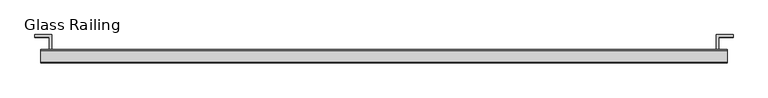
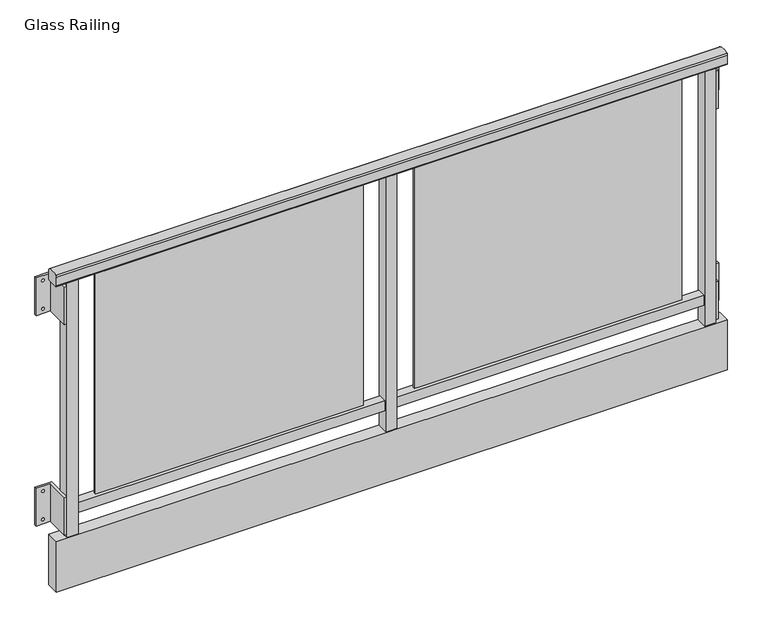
"""IFC4 building model written with IfcOpenShell, lengths in millimetres: proxy geometry, Specialty-Equipment_Endurable-Building-Products_Juliet-Balconies : Glass Railing."""

from ifc_helpers import new_model, si_unit, point, frame, frame_2d, origin, origin_with_axes, place, context, project, spatial, polyline, circle_curve, trimmed, segment, composite_curve, outline, extrude, source, transform, mapped, element, save
from ifc_brep_helpers import plane_surface, revolved_surface, advanced_brep


def glass_railing_28617125(model_context):
    return source(origin(), model_context, "Body", "SolidModel", [
        extrude(outline(polyline([(1121.56875, -76.99375), (1121.56875, -83.34375), (97.63125, -83.34375), (97.63125, -76.99375), (1121.56875, -76.99375)])), frame((0.0, 0.0, 122.936), z_axis=(0.0, 0.0, 1.0), x_axis=(1.0, 0.0, 0.0)), (0.0, 0.0, 1.0), 905.764),
        extrude(outline(polyline([(-1121.56875, -76.99375), (-97.63125, -76.99375), (-97.63125, -83.34375), (-1121.56875, -83.34375), (-1121.56875, -76.99375)])), frame((0.0, 0.0, 122.936), z_axis=(0.0, 0.0, 1.0), x_axis=(1.0, 0.0, 0.0)), (0.0, 0.0, 1.0), 905.764),
        extrude(outline(polyline([(21.43125, -63.86195), (1197.76875, -63.86195), (1197.76875, -96.47555), (21.43125, -96.47555), (21.43125, -63.86195)])), frame((0.0, 0.0, 82.55), z_axis=(0.0, 0.0, 1.0), x_axis=(1.0, 0.0, 0.0)), (0.0, 0.0, 1.0), 40.386),
        extrude(outline(polyline([(-1197.76875, -63.86195), (-21.43125, -63.86195), (-21.43125, -96.47555), (-1197.76875, -96.47555), (-1197.76875, -63.86195)])), frame((0.0, 0.0, 82.55), z_axis=(0.0, 0.0, 1.0), x_axis=(1.0, 0.0, 0.0)), (0.0, 0.0, 1.0), 40.386),
        extrude(outline(polyline([(21.43125, -58.7375), (21.43125, -101.6), (-21.43125, -101.6), (-21.43125, -58.7375), (21.43125, -58.7375)])), origin_with_axes(), (0.0, 0.0, 1.0), 1028.7),
        extrude(outline(polyline([(1282.7, -54.76875), (1282.7, -105.56875), (-1282.7, -105.56875), (-1282.7, -54.76875), (1282.7, -54.76875)])), frame((0.0, 0.0, -203.2), z_axis=(0.0, 0.0, 1.0), x_axis=(1.0, 0.0, 0.0)), (0.0, 0.0, 1.0), 203.2),
        extrude(outline(polyline([(-1197.76875, -58.7375), (-1197.76875, -101.6), (-1240.63125, -101.6), (-1240.63125, -58.7375), (-1197.76875, -58.7375)])), origin_with_axes(), (0.0, 0.0, 1.0), 1028.7),
        extrude(outline(polyline([(1240.63125, -58.7375), (1240.63125, -101.6), (1197.76875, -101.6), (1197.76875, -58.7375), (1240.63125, -58.7375)])), origin_with_axes(), (0.0, 0.0, 1.0), 1028.7),
        extrude(outline(composite_curve([segment(polyline([(-54.76875, 1069.1003287), (-54.76875, 1035.05)]), True, "CONTINUOUS"), segment(trimmed(circle_curve(frame_2d((-61.11875, 1035.05)), 6.35), [point((-54.76875, 1035.05))], [point((-61.11875, 1028.7))], False, "CARTESIAN"), True, "CONTINUOUS"), segment(polyline([(-61.11875, 1028.7), (-99.21875, 1028.7)]), True, "CONTINUOUS"), segment(trimmed(circle_curve(frame_2d((-99.21875, 1035.05)), 6.35), [point((-99.21875, 1028.7))], [point((-105.56875, 1035.05))], False, "CARTESIAN"), True, "CONTINUOUS"), segment(polyline([(-105.56875, 1035.05), (-105.56875, 1069.1003287)]), True, "CONTINUOUS"), segment(trimmed(circle_curve(frame_2d((-99.21875, 1069.1003287)), 6.35), [point((-105.56875, 1069.1003287))], [point((-101.8018008, 1074.9012207))], False, "CARTESIAN"), True, "CONTINUOUS"), segment(trimmed(circle_curve(frame_2d((-80.16875, 1026.31875)), 53.18125), [point((-101.8018008, 1074.9012207))], [point((-58.5356992, 1074.9012207))], False, "CARTESIAN"), True, "CONTINUOUS"), segment(trimmed(circle_curve(frame_2d((-61.11875, 1069.1003287)), 6.35), [point((-58.5356992, 1074.9012207))], [point((-54.76875, 1069.1003287))], False, "CARTESIAN"), True, "CONTINUOUS")], self_intersect=False)), frame((-1282.7, 0.0, 0.0), z_axis=(1.0, 0.0, 0.0), x_axis=(0.0, 1.0, 0.0)), (0.0, 0.0, 1.0), 2565.4),
        advanced_brep(
        [(1240.63125, -101.6, 165.1), (1250.15625, -101.6, 165.1), (1250.15625, -9.525, 165.1), (1304.13125, -9.525, 165.1), (1304.13125, 0.0, 165.1), (1240.63125, 0.0, 165.1), (1240.63125, -101.6, 12.7), (1240.63125, 0.0, 12.7), (1304.13125, 0.0, 12.7), (1304.13125, -9.525, 12.7), (1250.15625, -9.525, 12.7), (1250.15625, -101.6, 12.7), (1273.175, 0.0, 146.05), (1284.2875, 0.0, 146.05), (1273.175, 0.0, 31.75), (1284.2875, 0.0, 31.75), (1284.2875, -9.525, 146.05), (1273.175, -9.525, 146.05), (1284.2875, -9.525, 31.75), (1273.175, -9.525, 31.75)],
        [
            (0, 1),
            (1, 2),
            (2, 3),
            (3, 4),
            (4, 5),
            (5, 0),
            (6, 7),
            (7, 8),
            (8, 9),
            (9, 10),
            (10, 11),
            (11, 6),
            (5, 7),
            (6, 0),
            (4, 8),
            (12, 13, circle_curve(frame((1278.73125, 0.0, 146.05), z_axis=(0.0, -1.0, 0.0), x_axis=(-1.0, 0.0, 0.0)), 5.55625)),
            (13, 12, circle_curve(frame((1278.73125, 0.0, 146.05), z_axis=(0.0, -1.0, 0.0), x_axis=(-1.0, 0.0, 0.0)), 5.55625)),
            (14, 15, circle_curve(frame((1278.73125, 0.0, 31.75), z_axis=(0.0, -1.0, 0.0), x_axis=(-1.0, 0.0, 0.0)), 5.55625)),
            (15, 14, circle_curve(frame((1278.73125, 0.0, 31.75), z_axis=(0.0, -1.0, 0.0), x_axis=(-1.0, 0.0, 0.0)), 5.55625)),
            (3, 9),
            (2, 10),
            (16, 17, circle_curve(frame((1278.73125, -9.525, 146.05), z_axis=(0.0, 1.0, 0.0), x_axis=(-1.0, 0.0, 0.0)), 5.55625)),
            (17, 16, circle_curve(frame((1278.73125, -9.525, 146.05), z_axis=(0.0, 1.0, 0.0), x_axis=(-1.0, 0.0, 0.0)), 5.55625)),
            (18, 19, circle_curve(frame((1278.73125, -9.525, 31.75), z_axis=(0.0, 1.0, 0.0), x_axis=(-1.0, 0.0, 0.0)), 5.55625)),
            (19, 18, circle_curve(frame((1278.73125, -9.525, 31.75), z_axis=(0.0, 1.0, 0.0), x_axis=(-1.0, 0.0, 0.0)), 5.55625)),
            (1, 11),
            (16, 13),
            (12, 17),
            (18, 15),
            (14, 19),
        ],
        [
            plane_surface(frame((1240.63125, -101.6, 165.1), z_axis=(0.0, 0.0, 1.0), x_axis=(1.0, 0.0, 0.0))),
            plane_surface(frame((1240.63125, -101.6, 12.7), z_axis=(0.0, 0.0, -1.0), x_axis=(-1.0, 0.0, 0.0))),
            plane_surface(frame((1240.63125, 0.0, 165.1), z_axis=(-1.0, 0.0, 0.0), x_axis=(0.0, 0.0, -1.0))),
            plane_surface(frame((1304.13125, 0.0, 165.1), z_axis=(0.0, 1.0, 0.0), x_axis=(0.0, 0.0, -1.0))),
            plane_surface(frame((1304.13125, -9.525, 165.1), z_axis=(1.0, 0.0, 0.0), x_axis=(0.0, 0.0, -1.0))),
            plane_surface(frame((1250.15625, -9.525, 165.1), z_axis=(0.0, -1.0, 0.0), x_axis=(0.0, 0.0, -1.0))),
            plane_surface(frame((1250.15625, -101.6, 165.1), z_axis=(1.0, 0.0, 0.0), x_axis=(0.0, 0.0, -1.0))),
            plane_surface(frame((1240.63125, -101.6, 165.1), z_axis=(0.0, -1.0, 0.0), x_axis=(0.0, 0.0, -1.0))),
            revolved_surface(polyline([(1273.175, -9.525, 146.05), (1273.175, 0.0, 146.05)]), (1278.73125, 0.0, 146.05), (0.0, -1.0, 0.0)),
            revolved_surface(polyline([(1273.175, -9.525, 31.75), (1273.175, 0.0, 31.75)]), (1278.73125, 0.0, 31.75), (0.0, -1.0, 0.0)),
        ],
        [
            (0, [[1, 2, 3, 4, 5, 6]]),
            (1, [[7, 8, 9, 10, 11, 12]]),
            (2, [[-6, 13, -7, 14]]),
            (3, [[-5, 15, -8, -13], [16, 17], [18, 19]]),
            (4, [[-4, 20, -9, -15]]),
            (5, [[-3, 21, -10, -20], [22, 23], [24, 25]]),
            (6, [[-2, 26, -11, -21]]),
            (7, [[-1, -14, -12, -26]]),
            (8, [[27, -16, 28, -22]]),
            (8, [[-27, -23, -28, -17]]),
            (9, [[29, -18, 30, -24]]),
            (9, [[-29, -25, -30, -19]]),
        ],
    ),
        advanced_brep(
        [(1240.63125, -101.6, 1016.0), (1250.15625, -101.6, 1016.0), (1250.15625, -9.525, 1016.0), (1304.13125, -9.525, 1016.0), (1304.13125, 0.0, 1016.0), (1240.63125, 0.0, 1016.0), (1240.63125, -101.6, 863.6), (1240.63125, 0.0, 863.6), (1304.13125, 0.0, 863.6), (1304.13125, -9.525, 863.6), (1250.15625, -9.525, 863.6), (1250.15625, -101.6, 863.6), (1273.175, 0.0, 996.95), (1284.2875, 0.0, 996.95), (1273.175, 0.0, 882.65), (1284.2875, 0.0, 882.65), (1284.2875, -9.525, 996.95), (1273.175, -9.525, 996.95), (1284.2875, -9.525, 882.65), (1273.175, -9.525, 882.65)],
        [
            (0, 1),
            (1, 2),
            (2, 3),
            (3, 4),
            (4, 5),
            (5, 0),
            (6, 7),
            (7, 8),
            (8, 9),
            (9, 10),
            (10, 11),
            (11, 6),
            (5, 7),
            (6, 0),
            (4, 8),
            (12, 13, circle_curve(frame((1278.73125, 0.0, 996.95), z_axis=(0.0, -1.0, 0.0), x_axis=(-1.0, 0.0, 0.0)), 5.55625)),
            (13, 12, circle_curve(frame((1278.73125, 0.0, 996.95), z_axis=(0.0, -1.0, 0.0), x_axis=(-1.0, 0.0, 0.0)), 5.55625)),
            (14, 15, circle_curve(frame((1278.73125, 0.0, 882.65), z_axis=(0.0, -1.0, 0.0), x_axis=(-1.0, 0.0, 0.0)), 5.55625)),
            (15, 14, circle_curve(frame((1278.73125, 0.0, 882.65), z_axis=(0.0, -1.0, 0.0), x_axis=(-1.0, 0.0, 0.0)), 5.55625)),
            (3, 9),
            (2, 10),
            (16, 17, circle_curve(frame((1278.73125, -9.525, 996.95), z_axis=(0.0, 1.0, 0.0), x_axis=(-1.0, 0.0, 0.0)), 5.55625)),
            (17, 16, circle_curve(frame((1278.73125, -9.525, 996.95), z_axis=(0.0, 1.0, 0.0), x_axis=(-1.0, 0.0, 0.0)), 5.55625)),
            (18, 19, circle_curve(frame((1278.73125, -9.525, 882.65), z_axis=(0.0, 1.0, 0.0), x_axis=(-1.0, 0.0, 0.0)), 5.55625)),
            (19, 18, circle_curve(frame((1278.73125, -9.525, 882.65), z_axis=(0.0, 1.0, 0.0), x_axis=(-1.0, 0.0, 0.0)), 5.55625)),
            (1, 11),
            (16, 13),
            (12, 17),
            (18, 15),
            (14, 19),
        ],
        [
            plane_surface(frame((1240.63125, -101.6, 1016.0), z_axis=(0.0, 0.0, 1.0), x_axis=(1.0, 0.0, 0.0))),
            plane_surface(frame((1240.63125, -101.6, 863.6), z_axis=(0.0, 0.0, -1.0), x_axis=(-1.0, 0.0, 0.0))),
            plane_surface(frame((1240.63125, 0.0, 1016.0), z_axis=(-1.0, 0.0, 0.0), x_axis=(0.0, 0.0, -1.0))),
            plane_surface(frame((1304.13125, 0.0, 1016.0), z_axis=(0.0, 1.0, 0.0), x_axis=(0.0, 0.0, -1.0))),
            plane_surface(frame((1304.13125, -9.525, 1016.0), z_axis=(1.0, 0.0, 0.0), x_axis=(0.0, 0.0, -1.0))),
            plane_surface(frame((1250.15625, -9.525, 1016.0), z_axis=(0.0, -1.0, 0.0), x_axis=(0.0, 0.0, -1.0))),
            plane_surface(frame((1250.15625, -101.6, 1016.0), z_axis=(1.0, 0.0, 0.0), x_axis=(0.0, 0.0, -1.0))),
            plane_surface(frame((1240.63125, -101.6, 1016.0), z_axis=(0.0, -1.0, 0.0), x_axis=(0.0, 0.0, -1.0))),
            revolved_surface(polyline([(1273.175, -9.525, 996.95), (1273.175, 0.0, 996.95)]), (1278.73125, 0.0, 996.95), (0.0, -1.0, 0.0)),
            revolved_surface(polyline([(1273.175, -9.525, 882.65), (1273.175, 0.0, 882.65)]), (1278.73125, 0.0, 882.65), (0.0, -1.0, 0.0)),
        ],
        [
            (0, [[1, 2, 3, 4, 5, 6]]),
            (1, [[7, 8, 9, 10, 11, 12]]),
            (2, [[-6, 13, -7, 14]]),
            (3, [[-5, 15, -8, -13], [16, 17], [18, 19]]),
            (4, [[-4, 20, -9, -15]]),
            (5, [[-3, 21, -10, -20], [22, 23], [24, 25]]),
            (6, [[-2, 26, -11, -21]]),
            (7, [[-1, -14, -12, -26]]),
            (8, [[27, -16, 28, -22]]),
            (8, [[-27, -23, -28, -17]]),
            (9, [[29, -18, 30, -24]]),
            (9, [[-29, -25, -30, -19]]),
        ],
    ),
        advanced_brep(
        [(-1240.63125, -101.6, 165.1), (-1240.63125, 0.0, 165.1), (-1304.13125, 0.0, 165.1), (-1304.13125, -9.525, 165.1), (-1250.15625, -9.525, 165.1), (-1250.15625, -101.6, 165.1), (-1240.63125, -101.6, 12.7), (-1250.15625, -101.6, 12.7), (-1250.15625, -9.525, 12.7), (-1304.13125, -9.525, 12.7), (-1304.13125, 0.0, 12.7), (-1240.63125, 0.0, 12.7), (-1284.2875, 0.0, 146.05), (-1273.175, 0.0, 146.05), (-1284.2875, 0.0, 31.75), (-1273.175, 0.0, 31.75), (-1273.175, -9.525, 146.05), (-1284.2875, -9.525, 146.05), (-1273.175, -9.525, 31.75), (-1284.2875, -9.525, 31.75)],
        [
            (0, 1),
            (1, 2),
            (2, 3),
            (3, 4),
            (4, 5),
            (5, 0),
            (6, 7),
            (7, 8),
            (8, 9),
            (9, 10),
            (10, 11),
            (11, 6),
            (0, 6),
            (11, 1),
            (10, 2),
            (12, 13, circle_curve(frame((-1278.73125, 0.0, 146.05), z_axis=(0.0, -1.0, 0.0), x_axis=(1.0, 0.0, 0.0)), 5.55625)),
            (13, 12, circle_curve(frame((-1278.73125, 0.0, 146.05), z_axis=(0.0, -1.0, 0.0), x_axis=(1.0, 0.0, 0.0)), 5.55625)),
            (14, 15, circle_curve(frame((-1278.73125, 0.0, 31.75), z_axis=(0.0, -1.0, 0.0), x_axis=(1.0, 0.0, 0.0)), 5.55625)),
            (15, 14, circle_curve(frame((-1278.73125, 0.0, 31.75), z_axis=(0.0, -1.0, 0.0), x_axis=(1.0, 0.0, 0.0)), 5.55625)),
            (9, 3),
            (8, 4),
            (16, 17, circle_curve(frame((-1278.73125, -9.525, 146.05), z_axis=(0.0, 1.0, 0.0), x_axis=(1.0, 0.0, 0.0)), 5.55625)),
            (17, 16, circle_curve(frame((-1278.73125, -9.525, 146.05), z_axis=(0.0, 1.0, 0.0), x_axis=(1.0, 0.0, 0.0)), 5.55625)),
            (18, 19, circle_curve(frame((-1278.73125, -9.525, 31.75), z_axis=(0.0, 1.0, 0.0), x_axis=(1.0, 0.0, 0.0)), 5.55625)),
            (19, 18, circle_curve(frame((-1278.73125, -9.525, 31.75), z_axis=(0.0, 1.0, 0.0), x_axis=(1.0, 0.0, 0.0)), 5.55625)),
            (7, 5),
            (16, 13),
            (12, 17),
            (18, 15),
            (14, 19),
        ],
        [
            plane_surface(frame((-1240.63125, 0.0, 165.1), z_axis=(0.0, 0.0, 1.0), x_axis=(0.0, 1.0, 0.0))),
            plane_surface(frame((-1240.63125, 0.0, 12.7), z_axis=(0.0, 0.0, -1.0), x_axis=(0.0, -1.0, 0.0))),
            plane_surface(frame((-1240.63125, -101.6, 165.1), z_axis=(1.0, 0.0, 0.0), x_axis=(0.0, 0.0, -1.0))),
            plane_surface(frame((-1240.63125, 0.0, 165.1), z_axis=(0.0, 1.0, 0.0), x_axis=(0.0, 0.0, -1.0))),
            plane_surface(frame((-1304.13125, 0.0, 165.1), z_axis=(-1.0, 0.0, 0.0), x_axis=(0.0, 0.0, -1.0))),
            plane_surface(frame((-1304.13125, -9.525, 165.1), z_axis=(0.0, -1.0, 0.0), x_axis=(0.0, 0.0, -1.0))),
            plane_surface(frame((-1250.15625, -9.525, 165.1), z_axis=(-1.0, 0.0, 0.0), x_axis=(0.0, 0.0, -1.0))),
            plane_surface(frame((-1250.15625, -101.6, 165.1), z_axis=(0.0, -1.0, 0.0), x_axis=(0.0, 0.0, -1.0))),
            revolved_surface(polyline([(-1273.175, -9.525, 146.05), (-1273.175, 0.0, 146.05)]), (-1278.73125, 0.0, 146.05), (0.0, -1.0, 0.0)),
            revolved_surface(polyline([(-1273.175, -9.525, 31.75), (-1273.175, 0.0, 31.75)]), (-1278.73125, 0.0, 31.75), (0.0, -1.0, 0.0)),
        ],
        [
            (0, [[1, 2, 3, 4, 5, 6]]),
            (1, [[7, 8, 9, 10, 11, 12]]),
            (2, [[-1, 13, -12, 14]]),
            (3, [[-2, -14, -11, 15], [16, 17], [18, 19]]),
            (4, [[-3, -15, -10, 20]]),
            (5, [[-4, -20, -9, 21], [22, 23], [24, 25]]),
            (6, [[-5, -21, -8, 26]]),
            (7, [[-6, -26, -7, -13]]),
            (8, [[27, -16, 28, -22]]),
            (8, [[-27, -23, -28, -17]]),
            (9, [[29, -18, 30, -24]]),
            (9, [[-29, -25, -30, -19]]),
        ],
    ),
        advanced_brep(
        [(-1240.63125, -101.6, 1016.0), (-1240.63125, 0.0, 1016.0), (-1304.13125, 0.0, 1016.0), (-1304.13125, -9.525, 1016.0), (-1250.15625, -9.525, 1016.0), (-1250.15625, -101.6, 1016.0), (-1240.63125, -101.6, 863.6), (-1250.15625, -101.6, 863.6), (-1250.15625, -9.525, 863.6), (-1304.13125, -9.525, 863.6), (-1304.13125, 0.0, 863.6), (-1240.63125, 0.0, 863.6), (-1284.2875, 0.0, 996.95), (-1273.175, 0.0, 996.95), (-1284.2875, 0.0, 882.65), (-1273.175, 0.0, 882.65), (-1273.175, -9.525, 996.95), (-1284.2875, -9.525, 996.95), (-1273.175, -9.525, 882.65), (-1284.2875, -9.525, 882.65)],
        [
            (0, 1),
            (1, 2),
            (2, 3),
            (3, 4),
            (4, 5),
            (5, 0),
            (6, 7),
            (7, 8),
            (8, 9),
            (9, 10),
            (10, 11),
            (11, 6),
            (0, 6),
            (11, 1),
            (10, 2),
            (12, 13, circle_curve(frame((-1278.73125, 0.0, 996.95), z_axis=(0.0, -1.0, 0.0), x_axis=(1.0, 0.0, 0.0)), 5.55625)),
            (13, 12, circle_curve(frame((-1278.73125, 0.0, 996.95), z_axis=(0.0, -1.0, 0.0), x_axis=(1.0, 0.0, 0.0)), 5.55625)),
            (14, 15, circle_curve(frame((-1278.73125, 0.0, 882.65), z_axis=(0.0, -1.0, 0.0), x_axis=(1.0, 0.0, 0.0)), 5.55625)),
            (15, 14, circle_curve(frame((-1278.73125, 0.0, 882.65), z_axis=(0.0, -1.0, 0.0), x_axis=(1.0, 0.0, 0.0)), 5.55625)),
            (9, 3),
            (8, 4),
            (16, 17, circle_curve(frame((-1278.73125, -9.525, 996.95), z_axis=(0.0, 1.0, 0.0), x_axis=(1.0, 0.0, 0.0)), 5.55625)),
            (17, 16, circle_curve(frame((-1278.73125, -9.525, 996.95), z_axis=(0.0, 1.0, 0.0), x_axis=(1.0, 0.0, 0.0)), 5.55625)),
            (18, 19, circle_curve(frame((-1278.73125, -9.525, 882.65), z_axis=(0.0, 1.0, 0.0), x_axis=(1.0, 0.0, 0.0)), 5.55625)),
            (19, 18, circle_curve(frame((-1278.73125, -9.525, 882.65), z_axis=(0.0, 1.0, 0.0), x_axis=(1.0, 0.0, 0.0)), 5.55625)),
            (7, 5),
            (16, 13),
            (12, 17),
            (18, 15),
            (14, 19),
        ],
        [
            plane_surface(frame((-1240.63125, 0.0, 1016.0), z_axis=(0.0, 0.0, 1.0), x_axis=(0.0, 1.0, 0.0))),
            plane_surface(frame((-1240.63125, 0.0, 863.6), z_axis=(0.0, 0.0, -1.0), x_axis=(0.0, -1.0, 0.0))),
            plane_surface(frame((-1240.63125, -101.6, 1016.0), z_axis=(1.0, 0.0, 0.0), x_axis=(0.0, 0.0, -1.0))),
            plane_surface(frame((-1240.63125, 0.0, 1016.0), z_axis=(0.0, 1.0, 0.0), x_axis=(0.0, 0.0, -1.0))),
            plane_surface(frame((-1304.13125, 0.0, 1016.0), z_axis=(-1.0, 0.0, 0.0), x_axis=(0.0, 0.0, -1.0))),
            plane_surface(frame((-1304.13125, -9.525, 1016.0), z_axis=(0.0, -1.0, 0.0), x_axis=(0.0, 0.0, -1.0))),
            plane_surface(frame((-1250.15625, -9.525, 1016.0), z_axis=(-1.0, 0.0, 0.0), x_axis=(0.0, 0.0, -1.0))),
            plane_surface(frame((-1250.15625, -101.6, 1016.0), z_axis=(0.0, -1.0, 0.0), x_axis=(0.0, 0.0, -1.0))),
            revolved_surface(polyline([(-1273.175, -9.525, 996.95), (-1273.175, 0.0, 996.95)]), (-1278.73125, 0.0, 996.95), (0.0, -1.0, 0.0)),
            revolved_surface(polyline([(-1273.175, -9.525, 882.65), (-1273.175, 0.0, 882.65)]), (-1278.73125, 0.0, 882.65), (0.0, -1.0, 0.0)),
        ],
        [
            (0, [[1, 2, 3, 4, 5, 6]]),
            (1, [[7, 8, 9, 10, 11, 12]]),
            (2, [[-1, 13, -12, 14]]),
            (3, [[-2, -14, -11, 15], [16, 17], [18, 19]]),
            (4, [[-3, -15, -10, 20]]),
            (5, [[-4, -20, -9, 21], [22, 23], [24, 25]]),
            (6, [[-5, -21, -8, 26]]),
            (7, [[-6, -26, -7, -13]]),
            (8, [[27, -16, 28, -22]]),
            (8, [[-27, -23, -28, -17]]),
            (9, [[29, -18, 30, -24]]),
            (9, [[-29, -25, -30, -19]]),
        ],
    ),
    ])


if __name__ == "__main__":
    model = new_model("IFC4")
    model_context = context("Model", 3, world=origin())
    ifc_project = project(units=[si_unit("LENGTHUNIT", "METRE", prefix="MILLI")], contexts=[model_context])
    site = spatial("IfcSite", under=ifc_project)
    building = spatial("IfcBuilding", under=site)
    placement = place(None, origin())
    glass_railing_shape = glass_railing_28617125(model_context)
    element("IfcBuildingElementProxy", 1, Name="Specialty-Equipment_Endurable-Building-Products_Juliet-Balconies : Glass Railing", ObjectType="Specialty-Equipment_Endurable-Building-Products_Juliet-Balconies : Glass Railing", at=placement, inside=building, context=model_context, shape_type="MappedRepresentation", body=[
        mapped(glass_railing_shape, transform((0.0, 0.0, 0.0), x_axis=(1.0, 0.0, 0.0), y_axis=(0.0, 1.0, 0.0), z_axis=(0.0, 0.0, 1.0))),
    ])
    save(model, "model.ifc")
